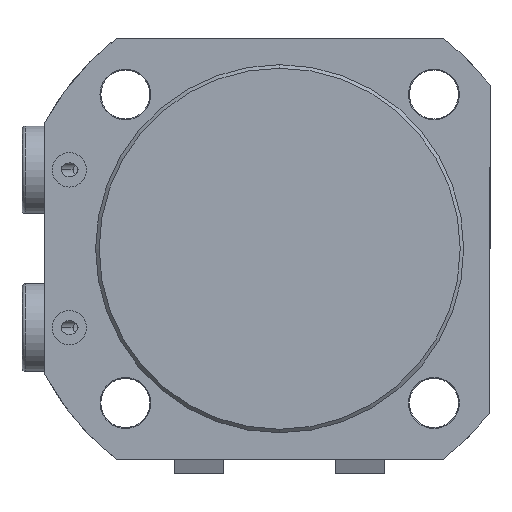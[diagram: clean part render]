
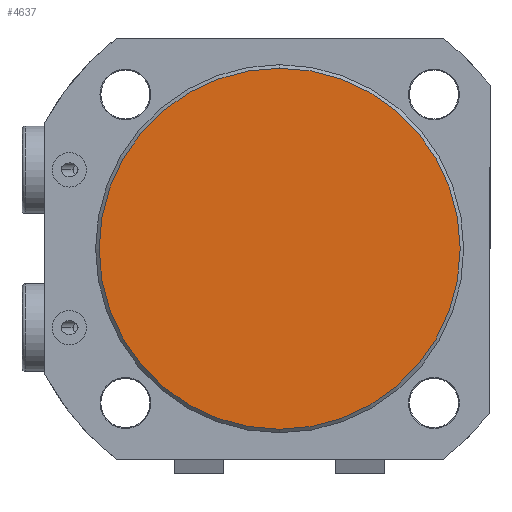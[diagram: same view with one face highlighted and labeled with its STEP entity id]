
A CAD part, front view. The second image highlights one B-rep face of the part: STEP entity #4637.
In plain terms, the highlighted planar face has unit normal (0, -1, 0).
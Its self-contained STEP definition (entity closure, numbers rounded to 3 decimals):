
#515 = PLANE ( 'NONE',  #5708 ) ;
#541 = AXIS2_PLACEMENT_3D ( 'NONE', #5514, #5524, #5527 ) ;
#721 = ORIENTED_EDGE ( 'NONE', *, *, #5567, .T. ) ;
#781 = VERTEX_POINT ( 'NONE', #3835 ) ;
#1097 = DIRECTION ( 'NONE',  ( 0., 0., 1. ) ) ;
#1166 = CIRCLE ( 'NONE', #541, 51.5 ) ;
#1243 = EDGE_CURVE ( 'NONE', #1686, #781, #1166, .T. ) ;
#1394 = CARTESIAN_POINT ( 'NONE',  ( 0., 0., 0. ) ) ;
#1554 = EDGE_LOOP ( 'NONE', ( #721, #3898 ) ) ;
#1686 = VERTEX_POINT ( 'NONE', #7813 ) ;
#1953 = DIRECTION ( 'NONE',  ( 0., 0., 1. ) ) ;
#2200 = CIRCLE ( 'NONE', #4249, 51.5 ) ;
#2221 = CARTESIAN_POINT ( 'NONE',  ( 0., 0., 0. ) ) ;
#3835 = CARTESIAN_POINT ( 'NONE',  ( 0., 0., 51.5 ) ) ;
#3898 = ORIENTED_EDGE ( 'NONE', *, *, #1243, .T. ) ;
#4249 = AXIS2_PLACEMENT_3D ( 'NONE', #1394, #5649, #1953 ) ;
#4637 = ADVANCED_FACE ( 'NONE', ( #6560 ), #515, .F. ) ;
#4719 = DIRECTION ( 'NONE',  ( 0., 1., 0. ) ) ;
#5514 = CARTESIAN_POINT ( 'NONE',  ( 0., 0., 0. ) ) ;
#5524 = DIRECTION ( 'NONE',  ( 0., -1., 0. ) ) ;
#5527 = DIRECTION ( 'NONE',  ( 0., 0., 1. ) ) ;
#5567 = EDGE_CURVE ( 'NONE', #781, #1686, #2200, .T. ) ;
#5649 = DIRECTION ( 'NONE',  ( 0., -1., 0. ) ) ;
#5708 = AXIS2_PLACEMENT_3D ( 'NONE', #2221, #4719, #1097 ) ;
#6560 = FACE_OUTER_BOUND ( 'NONE', #1554, .T. ) ;
#7813 = CARTESIAN_POINT ( 'NONE',  ( 0., 0., -51.5 ) ) ;
